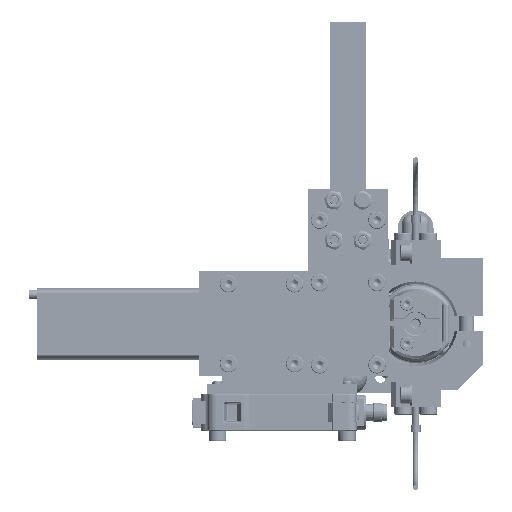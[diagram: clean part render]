
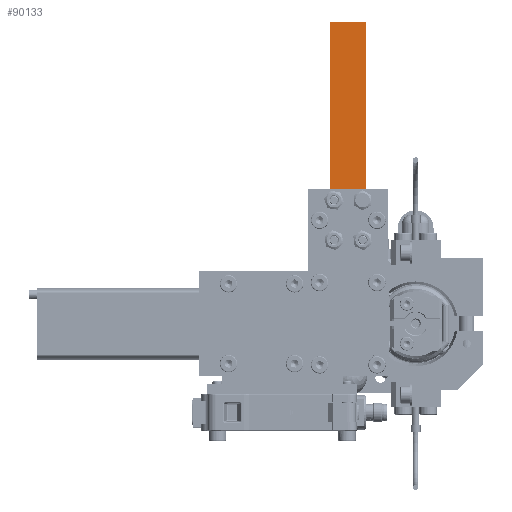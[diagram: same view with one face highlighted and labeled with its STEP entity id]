
A CAD part, top view. The second image highlights one B-rep face of the part: STEP entity #90133.
In plain terms, the highlighted planar face has unit normal (0, 0, 1).
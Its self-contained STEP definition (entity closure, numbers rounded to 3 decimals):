
#5930=PLANE('',#95192);
#9370=FACE_OUTER_BOUND('',#14449,.T.);
#14449=EDGE_LOOP('',(#64003,#64004,#64005,#64006));
#19937=LINE('',#305666,#26245);
#19938=LINE('',#305669,#26246);
#19939=LINE('',#305671,#26247);
#19940=LINE('',#305672,#26248);
#26245=VECTOR('',#105804,10.);
#26246=VECTOR('',#105807,10.);
#26247=VECTOR('',#105808,10.);
#26248=VECTOR('',#105809,10.);
#37195=VERTEX_POINT('',#305660);
#37197=VERTEX_POINT('',#305664);
#37198=VERTEX_POINT('',#305668);
#37199=VERTEX_POINT('',#305670);
#47212=EDGE_CURVE('',#37197,#37195,#19937,.T.);
#47213=EDGE_CURVE('',#37195,#37198,#19938,.T.);
#47214=EDGE_CURVE('',#37199,#37197,#19939,.T.);
#47215=EDGE_CURVE('',#37199,#37198,#19940,.T.);
#64003=ORIENTED_EDGE('',*,*,#47213,.F.);
#64004=ORIENTED_EDGE('',*,*,#47212,.F.);
#64005=ORIENTED_EDGE('',*,*,#47214,.F.);
#64006=ORIENTED_EDGE('',*,*,#47215,.T.);
#90133=ADVANCED_FACE('',(#9370),#5930,.T.);
#95192=AXIS2_PLACEMENT_3D('',#305667,#105805,#105806);
#105804=DIRECTION('',(0.,-1.,0.));
#105805=DIRECTION('center_axis',(0.,0.,
1.));
#105806=DIRECTION('ref_axis',(0.,1.,0.));
#105807=DIRECTION('',(-1.,0.,0.));
#105808=DIRECTION('',(1.,0.,0.));
#105809=DIRECTION('',(0.,-1.,0.));
#305660=CARTESIAN_POINT('',(-84.601,119.217,258.563));
#305664=CARTESIAN_POINT('',(-84.601,186.217,258.563));
#305666=CARTESIAN_POINT('',(-84.601,186.217,258.563));
#305667=CARTESIAN_POINT('Origin',(-99.101,186.217,258.563));
#305668=CARTESIAN_POINT('',(-99.101,119.217,258.563));
#305669=CARTESIAN_POINT('',(-75.851,119.217,258.563));
#305670=CARTESIAN_POINT('',(-99.101,186.217,258.563));
#305671=CARTESIAN_POINT('',(-99.101,186.217,258.563));
#305672=CARTESIAN_POINT('',(-99.101,186.217,258.563));
